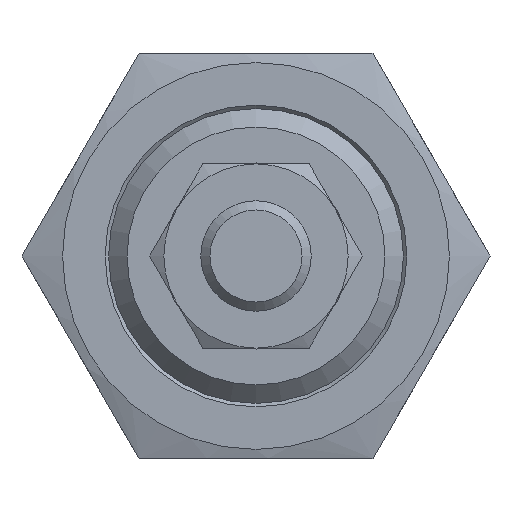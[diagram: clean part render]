
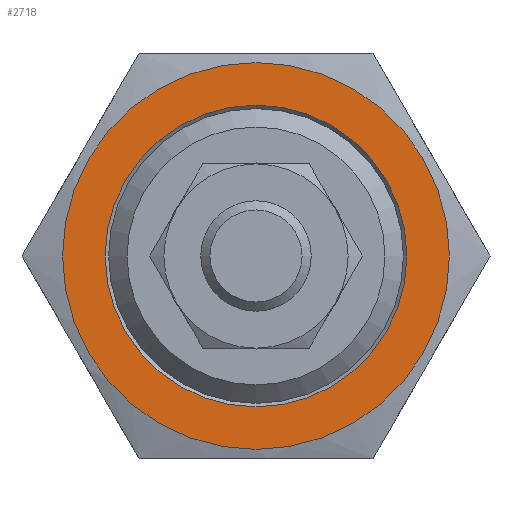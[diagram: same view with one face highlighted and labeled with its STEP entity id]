
A CAD part, front view. The second image highlights one B-rep face of the part: STEP entity #2718.
In plain terms, the highlighted planar face has unit normal (0, -1, 0) as drawn and (0, 0, 1) by its records, which use the part's own axes.
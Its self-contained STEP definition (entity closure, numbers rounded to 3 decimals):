
#510=PLANE('',#4354);
#1173=ORIENTED_EDGE('',*,*,#1544,.T.);
#1174=ORIENTED_EDGE('',*,*,#1545,.T.);
#1544=EDGE_CURVE('',#1800,#1800,#1949,.F.);
#1545=EDGE_CURVE('',#1801,#1801,#1950,.T.);
#1800=VERTEX_POINT('',#6176);
#1801=VERTEX_POINT('',#6178);
#1949=CIRCLE('',#4355,8.188);
#1950=CIRCLE('',#4356,10.5);
#2213=EDGE_LOOP('',(#1173));
#2214=EDGE_LOOP('',(#1174));
#2490=FACE_BOUND('',#2213,.T.);
#2491=FACE_BOUND('',#2214,.T.);
#2718=ADVANCED_FACE('',(#2490,#2491),#510,.T.);
#4354=AXIS2_PLACEMENT_3D('',#6174,#5110,#5111);
#4355=AXIS2_PLACEMENT_3D('',#6175,#5112,#5113);
#4356=AXIS2_PLACEMENT_3D('',#6177,#5114,#5115);
#5110=DIRECTION('',(0.,0.,1.));
#5111=DIRECTION('',(1.,0.,0.));
#5112=DIRECTION('',(0.,0.,1.));
#5113=DIRECTION('',(1.,0.,0.));
#5114=DIRECTION('',(0.,0.,1.));
#5115=DIRECTION('',(1.,0.,0.));
#6174=CARTESIAN_POINT('',(0.,0.,3.));
#6175=CARTESIAN_POINT('',(0.,0.,3.));
#6176=CARTESIAN_POINT('',(8.188,0.,3.));
#6177=CARTESIAN_POINT('',(0.,0.,3.));
#6178=CARTESIAN_POINT('',(10.5,0.,3.));
